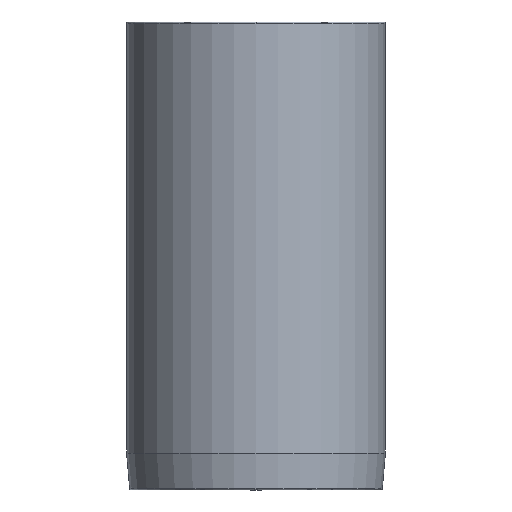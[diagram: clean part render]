
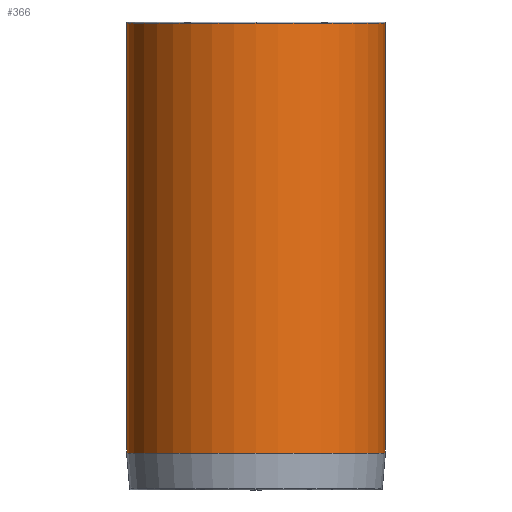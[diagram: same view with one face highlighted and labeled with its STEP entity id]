
A CAD part, front view. The second image highlights one B-rep face of the part: STEP entity #366.
In plain terms, the highlighted cylindrical face has radius 45.625 mm (diameter 91.25 mm), a partial arc.
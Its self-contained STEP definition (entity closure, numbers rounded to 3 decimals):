
#271=CARTESIAN_POINT('',(0.0,-45.625,82.5));
#272=VERTEX_POINT('',#271);
#298=CARTESIAN_POINT('',(-45.625,0.,82.5));
#299=VERTEX_POINT('',#298);
#307=CARTESIAN_POINT('',(0.0,0.,82.5));
#308=DIRECTION('',(0.0,0.0,1.0));
#309=DIRECTION('',(1.0,0.0,0.0));
#310=AXIS2_PLACEMENT_3D('',#307,#308,#309);
#311=CIRCLE('',#310,45.625);
#312=EDGE_CURVE('',#299,#272,#311,.T.);
#317=CARTESIAN_POINT('',(0.0,0.,6.772));
#318=DIRECTION('',(0.0,0.,1.0));
#319=DIRECTION('',(1.0,0.0,0.0));
#320=AXIS2_PLACEMENT_3D('',#317,#318,#319);
#321=CYLINDRICAL_SURFACE('',#320,45.625);
#322=CARTESIAN_POINT('',(45.625,0.,82.5));
#323=VERTEX_POINT('',#322);
#324=CARTESIAN_POINT('',(45.625,0.,-68.956));
#325=VERTEX_POINT('',#324);
#326=CARTESIAN_POINT('',(45.625,0.,82.5));
#327=DIRECTION('',(0.0,0.0,-1.0));
#328=VECTOR('',#327,151.456);
#329=LINE('',#326,#328);
#330=EDGE_CURVE('',#323,#325,#329,.T.);
#331=ORIENTED_EDGE('',*,*,#330,.F.);
#332=CARTESIAN_POINT('',(0.0,0.,82.5));
#333=DIRECTION('',(0.0,0.0,1.0));
#334=DIRECTION('',(1.0,0.0,0.0));
#335=AXIS2_PLACEMENT_3D('',#332,#333,#334);
#336=CIRCLE('',#335,45.625);
#337=EDGE_CURVE('',#272,#323,#336,.T.);
#338=ORIENTED_EDGE('',*,*,#337,.F.);
#339=ORIENTED_EDGE('',*,*,#312,.F.);
#340=CARTESIAN_POINT('',(-45.625,0.,-68.956));
#341=VERTEX_POINT('',#340);
#342=CARTESIAN_POINT('',(-45.625,0.,82.5));
#343=DIRECTION('',(0.0,0.0,-1.0));
#344=VECTOR('',#343,151.456);
#345=LINE('',#342,#344);
#346=EDGE_CURVE('',#299,#341,#345,.T.);
#347=ORIENTED_EDGE('',*,*,#346,.T.);
#348=CARTESIAN_POINT('',(0.0,-45.625,-68.956));
#349=VERTEX_POINT('',#348);
#350=CARTESIAN_POINT('',(0.0,0.,-68.956));
#351=DIRECTION('',(0.0,0.0,1.0));
#352=DIRECTION('',(1.0,0.0,0.0));
#353=AXIS2_PLACEMENT_3D('',#350,#351,#352);
#354=CIRCLE('',#353,45.625);
#355=EDGE_CURVE('',#341,#349,#354,.T.);
#356=ORIENTED_EDGE('',*,*,#355,.T.);
#357=CARTESIAN_POINT('',(0.0,0.,-68.956));
#358=DIRECTION('',(0.0,0.0,1.0));
#359=DIRECTION('',(1.0,0.0,0.0));
#360=AXIS2_PLACEMENT_3D('',#357,#358,#359);
#361=CIRCLE('',#360,45.625);
#362=EDGE_CURVE('',#349,#325,#361,.T.);
#363=ORIENTED_EDGE('',*,*,#362,.T.);
#364=EDGE_LOOP('',(#331,#338,#339,#347,#356,#363));
#365=FACE_OUTER_BOUND('',#364,.T.);
#366=ADVANCED_FACE('',(#365),#321,.T.);
